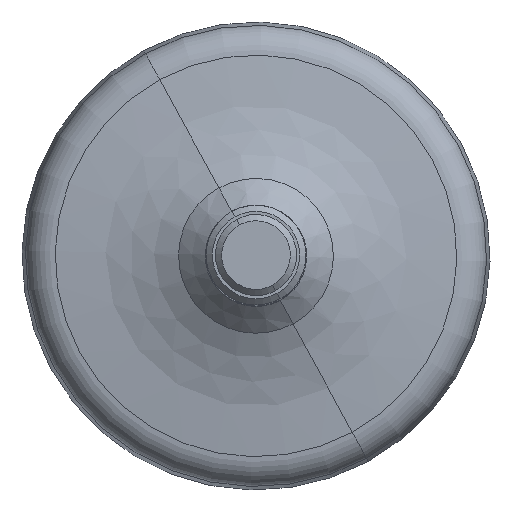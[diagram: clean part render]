
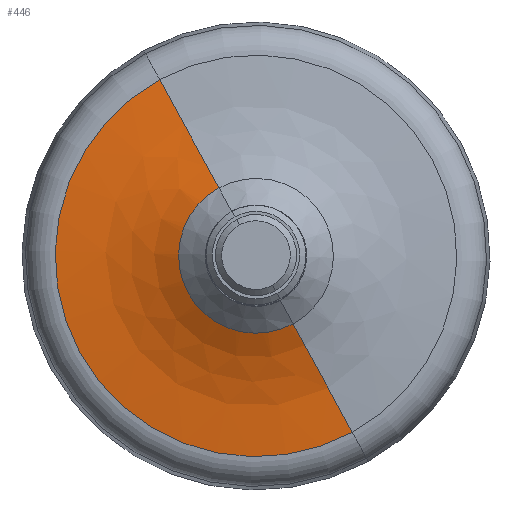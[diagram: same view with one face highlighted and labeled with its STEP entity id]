
A CAD part, top view. The second image highlights one B-rep face of the part: STEP entity #446.
In plain terms, the highlighted face is a revolution surface.
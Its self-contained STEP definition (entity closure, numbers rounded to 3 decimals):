
#377=CARTESIAN_POINT('Vertex',(15.424,-28.233,15.997)) ;
#380=CARTESIAN_POINT('Axis2P3D Location',(0.,0.,15.997)) ;
#384=CARTESIAN_POINT('Vertex',(-15.424,28.233,15.997)) ;
#412=CARTESIAN_POINT('Control Point',(-4.315,7.898,22.602)) ;
#413=CARTESIAN_POINT('Control Point',(-6.844,12.529,19.574)) ;
#414=CARTESIAN_POINT('Control Point',(-9.61,17.591,17.401)) ;
#415=CARTESIAN_POINT('Control Point',(-12.509,22.898,16.206)) ;
#416=CARTESIAN_POINT('Control Point',(-15.424,28.233,15.997)) ;
#417=CARTESIAN_POINT('Axis1P Location',(0.,0.,65.968)) ;
#421=CARTESIAN_POINT('Axis2P3D Location',(16.247,-29.74,65.968)) ;
#425=CARTESIAN_POINT('Vertex',(4.315,-7.898,22.602)) ;
#428=CARTESIAN_POINT('Axis2P3D Location',(0.,0.,22.602)) ;
#432=CARTESIAN_POINT('Vertex',(-4.315,7.898,22.602)) ;
#435=CARTESIAN_POINT('Axis2P3D Location',(-16.247,29.74,65.968)) ;
#381=DIRECTION('Axis2P3D Direction',(0.,0.,1.)) ;
#418=DIRECTION('Axis1P Direction',(-0.,-0.,-1.)) ;
#422=DIRECTION('Axis2P3D Direction',(-0.878,-0.479,0.)) ;
#429=DIRECTION('Axis2P3D Direction',(0.,0.,1.)) ;
#436=DIRECTION('Axis2P3D Direction',(0.878,0.479,-0.)) ;
#382=AXIS2_PLACEMENT_3D('Circle Axis2P3D',#380,#381,$) ;
#423=AXIS2_PLACEMENT_3D('Circle Axis2P3D',#421,#422,$) ;
#430=AXIS2_PLACEMENT_3D('Circle Axis2P3D',#428,#429,$) ;
#437=AXIS2_PLACEMENT_3D('Circle Axis2P3D',#435,#436,$) ;
#441=ORIENTED_EDGE('',*,*,#427,.T.) ;
#442=ORIENTED_EDGE('',*,*,#434,.F.) ;
#443=ORIENTED_EDGE('',*,*,#439,.F.) ;
#444=ORIENTED_EDGE('',*,*,#386,.T.) ;
#446=ADVANCED_FACE('PartBody',(#445),#420,.T.) ;
#419=AXIS1_PLACEMENT('Revolution Surface Axis1P',#417,#418) ;
#411=B_SPLINE_CURVE_WITH_KNOTS('',4,(#412,#413,#414,#415,#416),.UNSPECIFIED.,.F.,.U.,(5,5),(-104.591,-80.257),.UNSPECIFIED.) ;
#383=CIRCLE('generated circle',#382,32.172) ;
#424=CIRCLE('generated circle',#423,50.) ;
#431=CIRCLE('generated circle',#430,9.) ;
#438=CIRCLE('generated circle',#437,50.) ;
#386=EDGE_CURVE('',#385,#378,#383,.T.) ;
#427=EDGE_CURVE('',#378,#426,#424,.F.) ;
#434=EDGE_CURVE('',#433,#426,#431,.T.) ;
#439=EDGE_CURVE('',#385,#433,#438,.F.) ;
#440=EDGE_LOOP('',(#441,#442,#443,#444)) ;
#445=FACE_OUTER_BOUND('',#440,.T.) ;
#420=SURFACE_OF_REVOLUTION('homeo Torus',#411,#419) ;
#378=VERTEX_POINT('',#377) ;
#385=VERTEX_POINT('',#384) ;
#426=VERTEX_POINT('',#425) ;
#433=VERTEX_POINT('',#432) ;
